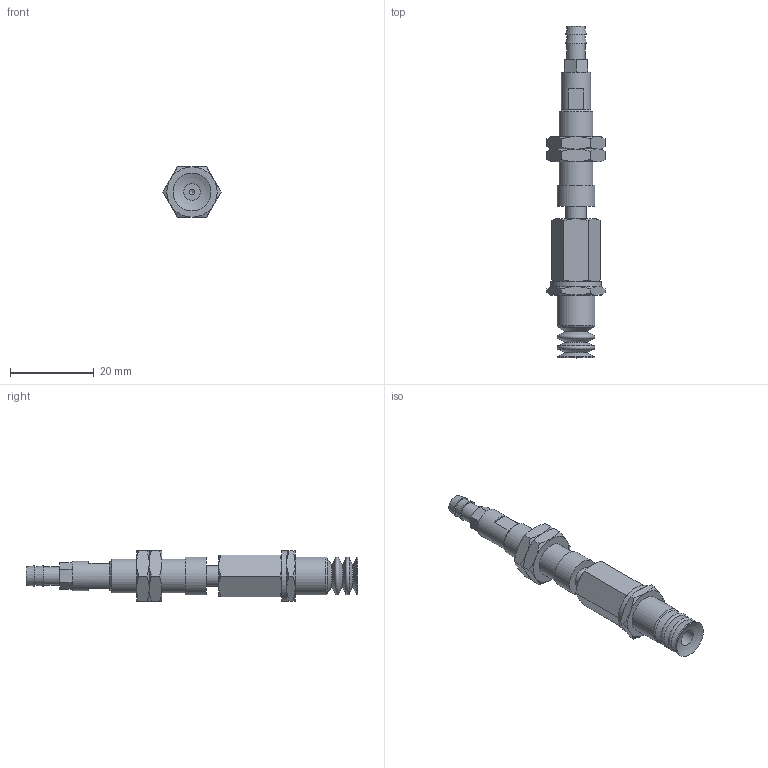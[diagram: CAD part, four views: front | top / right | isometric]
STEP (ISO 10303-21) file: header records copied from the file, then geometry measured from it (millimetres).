
FILE_DESCRIPTION(('STEP AP203'),'1');
FILE_NAME('-T.stp','2025-08-27T02:05:55',(' '),(' '),'Spatial InterOp 3D',' ',' ');
FILE_SCHEMA(('CONFIG_CONTROL_DESIGN'));
Length unit declared in the file: millimetre
Products named in the file (8): BNABPCTS-10-3-※-T; ADAPTER; NAPCTS-10-3-MBODY; Adapter_napc-10-T; Nut napc_s-10-3; NAPCTS-10-3-FBODY; BPCG-10-※; T
Assembly tree (8 placements, depth 2):
  BNABPCTS-10-3-※-T
    ADAPTER
    NAPCTS-10-3-MBODY
    Adapter_napc-10-T
    Nut napc_s-10-3  x2
    NAPCTS-10-3-FBODY
    BPCG-10-※
    T
Bounding box: 13.86 x 79.2 x 12 mm (x, y, z)
Volume: 4500 mm3; surface area: 5131.3 mm2
Topology: 8 solids, 8 shells, 160 faces, 322 edges, 189 vertices
Faces by surface type: cone 67, plane 61, cylinder 22, torus 8, sphere 2
Full cylindrical faces by diameter (mm): 1.25 x1, 3 x1, 4 x1, 4.134 x2, 4.3 x1, 5 x8, 7 x1, 7.188 x2, 8 x1, 9 x3, 12 x1
Entity records: 4050 total; most frequent: CARTESIAN_POINT 1067, DIRECTION 548, ORIENTED_EDGE 444, AXIS2_PLACEMENT_3D 252, EDGE_CURVE 222, EDGE_LOOP 206, FACE_OUTER_BOUND 168, VERTEX_POINT 159
